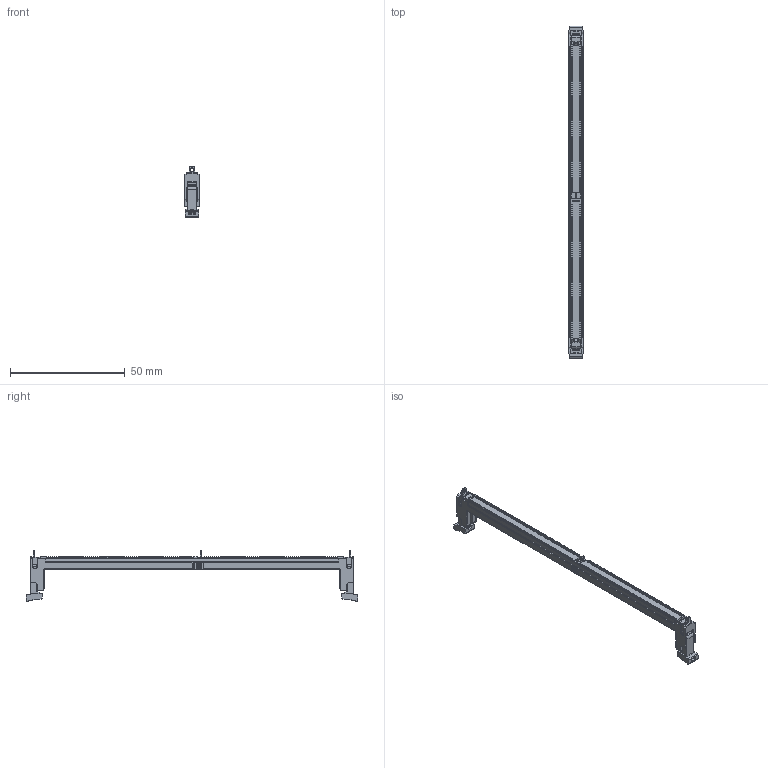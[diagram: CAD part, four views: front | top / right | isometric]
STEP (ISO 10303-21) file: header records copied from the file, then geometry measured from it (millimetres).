
FILE_DESCRIPTION((''),'2;1');
FILE_NAME('DDR5_SMT_CONN','2026-07-10T17:04:32',('12824382'),(''),'CREO PARAMETRIC BY PTC INC, 2019471','CREO PARAMETRIC BY PTC INC, 2019471','');
FILE_SCHEMA(('CONFIG_CONTROL_DESIGN'));
Products named in the file (1): DDR5_SMT_CONN
Bounding box: 6.1 x 144.6 x 22.17 mm (x, y, z)
Volume: 4076.3 mm3; surface area: 6303.3 mm2
Topology: 1 solids, 1 shells, 6573 faces, 17223 edges, 10941 vertices
Faces by surface type: plane 4754, cylinder 1645, bspline 150, torus 20, sphere 4
Entity records: 206258 total; most frequent: CARTESIAN_POINT 43498, ORIENTED_EDGE 34430, DIRECTION 32681, EDGE_CURVE 17215, VECTOR 11651, LINE 11651, VERTEX_POINT 10941, AXIS2_PLACEMENT_3D 10515
